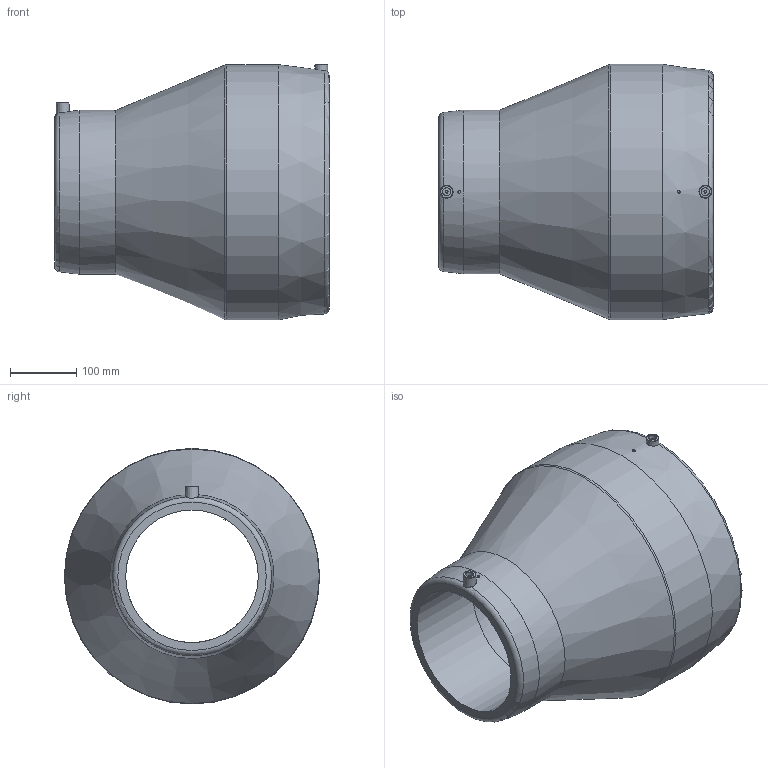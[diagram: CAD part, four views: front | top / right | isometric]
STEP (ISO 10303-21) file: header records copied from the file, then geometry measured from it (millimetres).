
FILE_DESCRIPTION(/* description */ ('Unknown'),/* implementation_level */ '2;1');
FILE_NAME(/* name */ 'REP315200C',/* time_stamp */ '2021-05-25T17:34:55+02:00',/* author */ ('Unknown'),/* organization */ ('Unknown'),/* preprocessor_version */ 'ST-DEVELOPER v16.7',/* originating_system */ 'Solid Edge',/* authorisation */ 'Unknown');
FILE_SCHEMA (('AUTOMOTIVE_DESIGN {1 0 10303 214 3 1 1}'));
Length unit declared in the file: millimetre
Products named in the file (1): REP315200C
Bounding box: 414 x 385 x 386 mm (x, y, z)
Volume: 12406802.9 mm3; surface area: 821445.4 mm2
Topology: 1 solids, 1 shells, 36 faces, 79 edges, 50 vertices
Faces by surface type: plane 15, cylinder 10, cone 6, torus 5
Full cylindrical faces by diameter (mm): 4 x4, 12 x2, 200 x1, 247 x1, 315 x1, 385 x1
Entity records: 852 total; most frequent: CARTESIAN_POINT 180, DIRECTION 142, ORIENTED_EDGE 90, AXIS2_PLACEMENT_3D 66, EDGE_LOOP 65, FACE_BOUND 65, EDGE_CURVE 45, VERTEX_POINT 38
